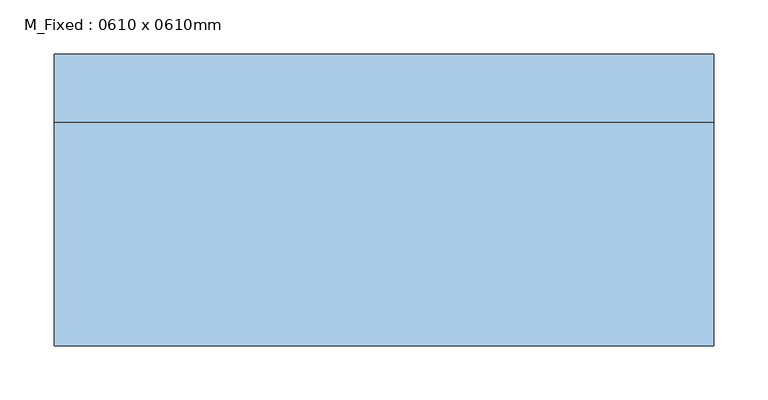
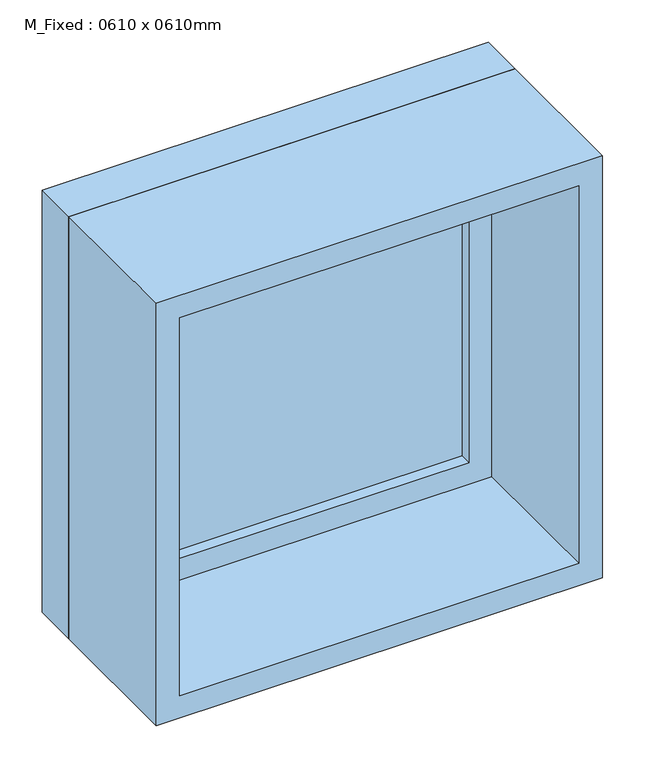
"""IFC4 building model written with IfcOpenShell, lengths in millimetres: window geometry, M_Fixed : 0610 x 0610mm."""

from ifc_helpers import new_model, si_unit, frame, origin, place, context, project, spatial, polyline, outline, extrude, source, transform, mapped, element, save


def m_fixed_0610_x_0610mm_01d4dfe5(model_context):
    return source(origin(), model_context, "Body", "SweptSolid", [
        extrude(outline(polyline([(-242.0, 113.0), (242.0, 113.0), (242.0, 101.0), (-242.0, 101.0), (-242.0, 113.0)])), frame((0.0, 0.0, 978.0), z_axis=(0.0, 0.0, 1.0), x_axis=(1.0, 0.0, 0.0)), (0.0, 0.0, 1.0), 484.0),
        extrude(outline(polyline([(1506.0, -286.0), (934.0, -286.0), (934.0, 286.0), (1506.0, 286.0), (1506.0, -286.0)]), holes=[polyline([(1462.0, -242.0), (1462.0, 242.0), (978.0, 242.0), (978.0, -242.0), (1462.0, -242.0)])]), frame((0.0, 85.0, 0.0), z_axis=(0.0, 1.0, 0.0), x_axis=(0.0, 0.0, 1.0)), (0.0, 0.0, 1.0), 44.0),
        extrude(outline(polyline([(1525.0, -305.0), (915.0, -305.0), (915.0, 305.0), (1525.0, 305.0), (1525.0, -305.0)]), holes=[polyline([(1506.0, -286.0), (1506.0, 286.0), (934.0, 286.0), (934.0, -286.0), (1506.0, -286.0)])]), frame((0.0, 85.0, 0.0), z_axis=(0.0, 1.0, 0.0), x_axis=(0.0, 0.0, 1.0)), (0.0, 0.0, 1.0), 63.0),
        extrude(outline(polyline([(1525.0, -305.0), (915.0, -305.0), (915.0, 305.0), (1525.0, 305.0), (1525.0, -305.0)]), holes=[polyline([(1493.0, -273.0), (1493.0, 273.0), (947.0, 273.0), (947.0, -273.0), (1493.0, -273.0)])]), frame((0.0, -122.0, 0.0), z_axis=(0.0, 1.0, 0.0), x_axis=(0.0, 0.0, 1.0)), (0.0, 0.0, 1.0), 207.0),
    ])


if __name__ == "__main__":
    model = new_model("IFC4")
    model_context = context("Model", 3, world=origin())
    ifc_project = project(units=[si_unit("LENGTHUNIT", "METRE", prefix="MILLI")], contexts=[model_context])
    site = spatial("IfcSite", under=ifc_project)
    building = spatial("IfcBuilding", under=site)
    placement = place(None, origin())
    m_fixed_0610_x_0610mm_shape = m_fixed_0610_x_0610mm_01d4dfe5(model_context)
    element("IfcWindow", 1, ObjectType="M_Fixed : 0610 x 0610mm", at=placement, inside=building, context=model_context, shape_type="MappedRepresentation", body=[
        mapped(m_fixed_0610_x_0610mm_shape, transform((0.0, 0.0, 0.0), x_axis=(1.0, 0.0, 0.0), y_axis=(0.0, 1.0, 0.0), z_axis=(0.0, 0.0, 1.0))),
    ])
    save(model, "model.ifc")
